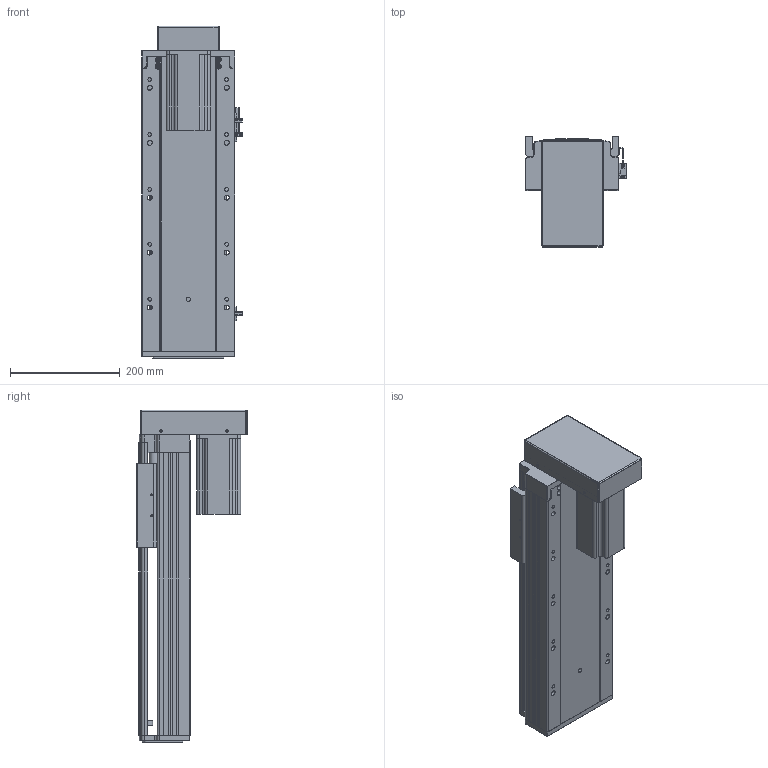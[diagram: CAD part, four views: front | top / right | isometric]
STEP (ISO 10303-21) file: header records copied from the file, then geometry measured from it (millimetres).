
FILE_DESCRIPTION (( 'STEP AP203' ), '1' );
FILE_NAME ('RY170-L2510-300-BK.SLDASM_300.step', '2021-03-12T08:57:03', ( '盈信电脑' ), ( '东莞市道滘镇水果街19号' ), 'SwSTEP 2.0', 'SolidWorks 2012', '' );
FILE_SCHEMA (( 'CONFIG_CONTROL_DESIGN' ));
Products named in the file (14): RY170-狟殏750W萇儂傷; RY170-L2510-300-BK.SLDASM_300; RY170狟殏萇儂欶; 怢湛750W萇儂ㄗ80遺ㄘ; RY170-狟殏萇儂假蚾啣; RY170外置感应片(200共用）; 滅袉蝶18-20; RY170转折电机端支撑座(7004); 滅袉蝶18-10; RY170綴裔啣; RY170-300倰第裔啣-BK; 覜茼ん672; 改造-RY170铝滑块25丝杆螺母; RY170-300倰第菁釱-BK
Assembly tree (15 placements, depth 3):
  RY170-L2510-300-BK.SLDASM_300
    RY170-300倰第菁釱-BK
    改造-RY170铝滑块25丝杆螺母
    RY170-300倰第裔啣-BK
    RY170綴裔啣
    覜茼ん672  x3
    RY170外置感应片(200共用）
    滅袉蝶18-20
    滅袉蝶18-10
    RY170转折电机端支撑座(7004)
    RY170-狟殏750W萇儂傷
      RY170-狟殏萇儂假蚾啣
      RY170狟殏萇儂欶
      怢湛750W萇儂ㄗ80遺ㄘ
Bounding box: 183.7 x 200.8 x 604.5 mm (x, y, z)
Volume: 4273613.3 mm3; surface area: 1203027.2 mm2
Topology: 14 solids, 14 shells, 2012 faces, 5733 edges, 3702 vertices
Faces by surface type: plane 1076, cylinder 779, cone 138, bspline 19
Entity records: 64250 total; most frequent: CARTESIAN_POINT 15011, ORIENTED_EDGE 10282, DIRECTION 9533, EDGE_CURVE 5141, VERTEX_POINT 3382, LINE 3289, VECTOR 3289, AXIS2_PLACEMENT_3D 3122
